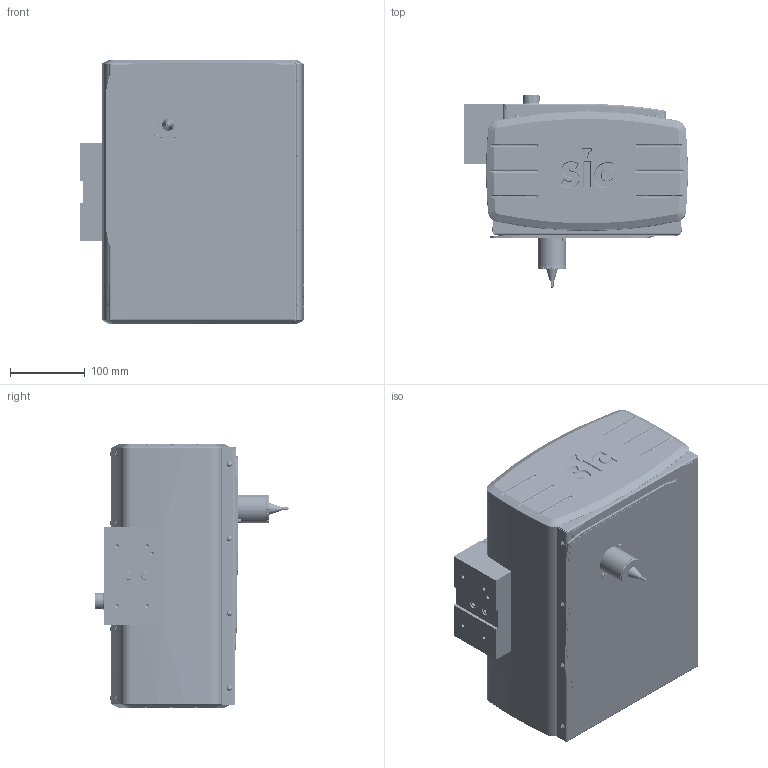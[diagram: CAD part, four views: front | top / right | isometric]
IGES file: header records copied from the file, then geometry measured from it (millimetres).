
Start section: SolidWorks IGES file using analytic representation for surfaces
Global section: file name: V:\04 - Produits\106 - i141\02 - Diffusion commerciale\i 141.IGS; native system: SolidWorks 2006 by SolidWorks Corporation; preprocessor: SolidWorks 2006 by SolidWorks Corporation; author: sic21; date: 080317.095813; units: millimetre
Bounding box: 299.26 x 259.7 x 354 mm (x, y, z)
Surface area: 1155560.7 mm2 (no closed solid volume)
Topology: 0 solids, 0 shells, 3520 faces, 35560 edges, 35406 vertices
Faces by surface type: revolution 1839, bspline 1681
